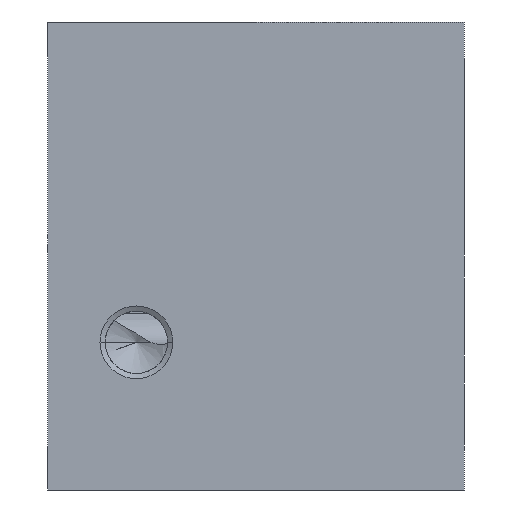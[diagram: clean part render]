
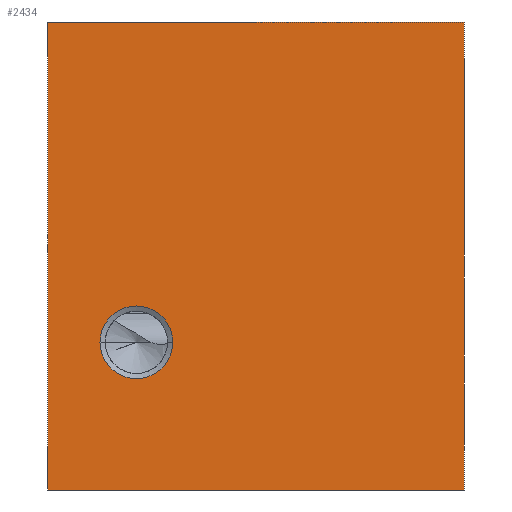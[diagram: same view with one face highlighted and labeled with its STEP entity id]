
A CAD part, left-side view. The second image highlights one B-rep face of the part: STEP entity #2434.
In plain terms, the highlighted planar face has unit normal (-1, 0, 0).
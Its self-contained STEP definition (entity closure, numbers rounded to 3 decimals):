
#23=DIRECTION('',(0.,-1.,0.));
#24=VECTOR('',#23,40.);
#25=CARTESIAN_POINT('',(-80.,40.,0.));
#26=LINE('',#25,#24);
#84=DIRECTION('',(0.,0.,1.));
#85=VECTOR('',#84,45.);
#86=CARTESIAN_POINT('',(-80.,40.,0.));
#87=LINE('',#86,#85);
#91=CARTESIAN_POINT('',(-80.,31.5,14.2));
#92=DIRECTION('',(-1.,0.,0.));
#93=DIRECTION('',(0.,1.,0.));
#94=AXIS2_PLACEMENT_3D('',#91,#92,#93);
#99=CARTESIAN_POINT('',(-80.,31.5,14.2));
#100=DIRECTION('',(-1.,0.,0.));
#101=DIRECTION('',(0.,-1.,0.));
#102=AXIS2_PLACEMENT_3D('',#99,#100,#101);
#281=DIRECTION('',(0.,0.,1.));
#282=VECTOR('',#281,45.);
#283=CARTESIAN_POINT('',(-80.,0.,0.));
#284=LINE('',#283,#282);
#432=DIRECTION('',(0.,-1.,0.));
#433=VECTOR('',#432,40.);
#434=CARTESIAN_POINT('',(-80.,40.,45.));
#435=LINE('',#434,#433);
#2124=CARTESIAN_POINT('',(-80.,40.,0.));
#2125=CARTESIAN_POINT('',(-80.,0.,0.));
#2126=VERTEX_POINT('',#2124);
#2127=VERTEX_POINT('',#2125);
#2132=CARTESIAN_POINT('',(-80.,40.,45.));
#2133=CARTESIAN_POINT('',(-80.,0.,45.));
#2134=VERTEX_POINT('',#2132);
#2135=VERTEX_POINT('',#2133);
#2286=CARTESIAN_POINT('',(-80.,35.,14.2));
#2287=VERTEX_POINT('',#2286);
#2290=CARTESIAN_POINT('',(-80.,28.,14.2));
#2291=VERTEX_POINT('',#2290);
#2414=CARTESIAN_POINT('',(-80.,40.,0.));
#2415=DIRECTION('',(-1.,0.,0.));
#2416=DIRECTION('',(0.,-1.,0.));
#2417=AXIS2_PLACEMENT_3D('',#2414,#2415,#2416);
#2418=PLANE('',#2417);
#2419=ORIENTED_EDGE('',*,*,#2379,.F.);
#2421=ORIENTED_EDGE('',*,*,#2420,.T.);
#2423=ORIENTED_EDGE('',*,*,#2422,.T.);
#2425=ORIENTED_EDGE('',*,*,#2424,.F.);
#2426=EDGE_LOOP('',(#2419,#2421,#2423,#2425));
#2427=FACE_OUTER_BOUND('',#2426,.F.);
#2429=ORIENTED_EDGE('',*,*,#2428,.T.);
#2431=ORIENTED_EDGE('',*,*,#2430,.T.);
#2432=EDGE_LOOP('',(#2429,#2431));
#2433=FACE_BOUND('',#2432,.F.);
#95=CIRCLE('',#94,3.5);
#103=CIRCLE('',#102,3.5);
#2379=EDGE_CURVE('',#2126,#2127,#26,.T.);
#2420=EDGE_CURVE('',#2126,#2134,#87,.T.);
#2422=EDGE_CURVE('',#2134,#2135,#435,.T.);
#2424=EDGE_CURVE('',#2127,#2135,#284,.T.);
#2428=EDGE_CURVE('',#2287,#2291,#95,.T.);
#2430=EDGE_CURVE('',#2291,#2287,#103,.T.);
#2434=ADVANCED_FACE('',(#2427,#2433),#2418,.T.);
